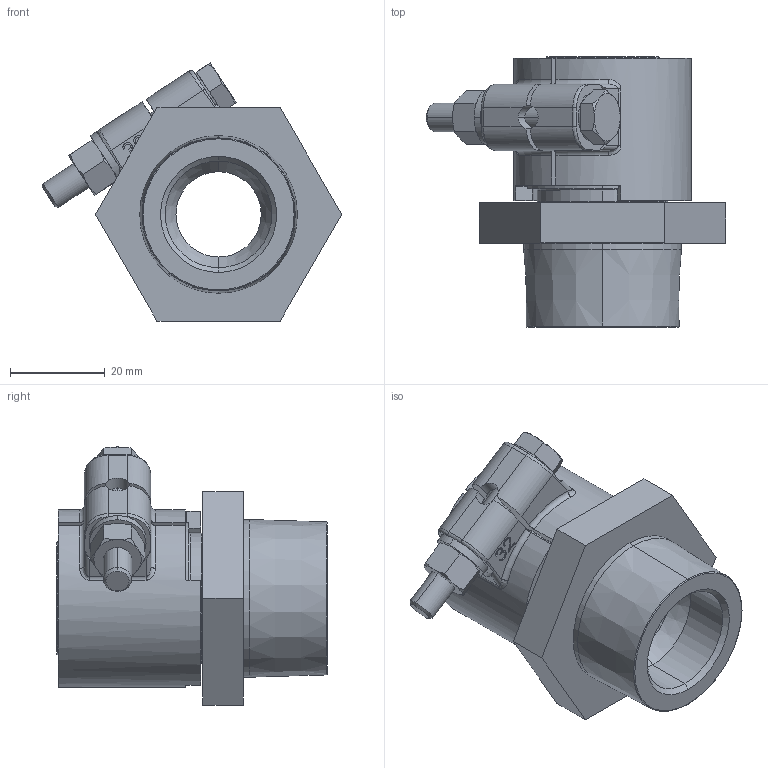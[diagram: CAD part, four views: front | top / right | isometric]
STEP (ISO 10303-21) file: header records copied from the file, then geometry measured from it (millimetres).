
FILE_DESCRIPTION (( 'STEP AP203' ), '1' );
FILE_NAME ('KP_C14-32MS.step', '2011-08-08T12:03:19', ( '' ), ( '' ), 'SwSTEP 2.0', 'SolidWorks 2011', '' );
FILE_SCHEMA (( 'CONFIG_CONTROL_DESIGN' ));
Length unit declared in the file: millimetre
Products named in the file (1): KP_C14-32MS
Bounding box: 63.17 x 57 x 54.44 mm (x, y, z)
Volume: 42368.2 mm3; surface area: 22988.5 mm2
Topology: 1 solids, 1 shells, 286 faces, 701 edges, 431 vertices
Faces by surface type: plane 87, cylinder 77, torus 58, cone 36, bspline 28
Entity records: 10212 total; most frequent: CARTESIAN_POINT 3528, ORIENTED_EDGE 1402, DIRECTION 1382, EDGE_CURVE 701, AXIS2_PLACEMENT_3D 561, VERTEX_POINT 431, EDGE_LOOP 306, CIRCLE 302
